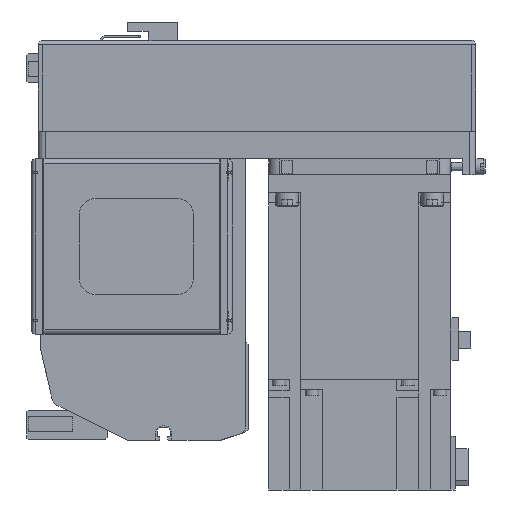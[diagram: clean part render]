
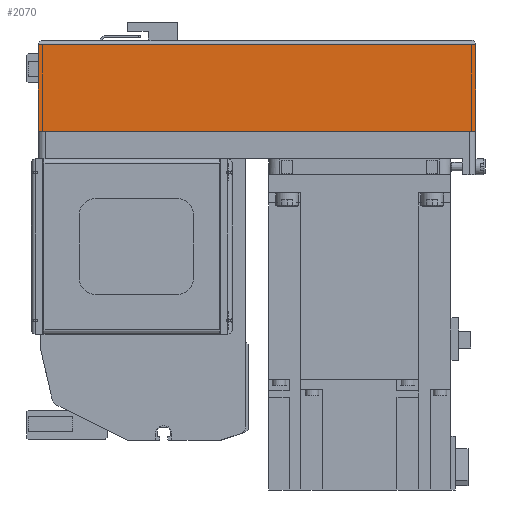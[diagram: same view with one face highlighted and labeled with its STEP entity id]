
A CAD part, left-side view. The second image highlights one B-rep face of the part: STEP entity #2070.
In plain terms, the highlighted planar face has unit normal (-1, 0, 0) as drawn and (0, -1, 0) by its records, which use the part's own axes.
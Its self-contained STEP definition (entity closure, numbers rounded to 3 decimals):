
#2070 = ADVANCED_FACE( '', ( #4849 ), #4850, .T. );
#4849 = FACE_OUTER_BOUND( '', #8467, .T. );
#4850 = PLANE( '', #8468 );
#8467 = EDGE_LOOP( '', ( #14407, #14408, #14409, #14410 ) );
#8468 = AXIS2_PLACEMENT_3D( '', #14411, #14412, #14413 );
#14407 = ORIENTED_EDGE( '', *, *, #21245, .F. );
#14408 = ORIENTED_EDGE( '', *, *, #22382, .F. );
#14409 = ORIENTED_EDGE( '', *, *, #22383, .T. );
#14410 = ORIENTED_EDGE( '', *, *, #22384, .T. );
#14411 = CARTESIAN_POINT( '', ( -192., -40., -12.1 ) );
#14412 = DIRECTION( '', ( 0., -1., 0. ) );
#14413 = DIRECTION( '', ( 0., 0., -1. ) );
#21245 = EDGE_CURVE( '', #25642, #25643, #25644, .T. );
#22382 = EDGE_CURVE( '', #25968, #25642, #27469, .T. );
#22383 = EDGE_CURVE( '', #25968, #26996, #27470, .T. );
#22384 = EDGE_CURVE( '', #26996, #25643, #27471, .T. );
#25642 = VERTEX_POINT( '', #32136 );
#25643 = VERTEX_POINT( '', #32137 );
#25644 = LINE( '', #32138, #32139 );
#25968 = VERTEX_POINT( '', #32598 );
#26996 = VERTEX_POINT( '', #34141 );
#27469 = LINE( '', #34910, #34911 );
#27470 = LINE( '', #34912, #34913 );
#27471 = LINE( '', #34914, #34915 );
#32136 = CARTESIAN_POINT( '', ( 0., -40., -12.1 ) );
#32137 = CARTESIAN_POINT( '', ( 0., -40., -50. ) );
#32138 = CARTESIAN_POINT( '', ( 0., -40., -12.1 ) );
#32139 = VECTOR( '', #39324, 1000. );
#32598 = CARTESIAN_POINT( '', ( -192., -40., -12.1 ) );
#34141 = CARTESIAN_POINT( '', ( -192., -40., -50. ) );
#34910 = CARTESIAN_POINT( '', ( -192., -40., -12.1 ) );
#34911 = VECTOR( '', #40822, 1000. );
#34912 = CARTESIAN_POINT( '', ( -192., -40., -12.1 ) );
#34913 = VECTOR( '', #40823, 1000. );
#34914 = CARTESIAN_POINT( '', ( -192., -40., -50. ) );
#34915 = VECTOR( '', #40824, 1000. );
#39324 = DIRECTION( '', ( 0., 0., -1. ) );
#40822 = DIRECTION( '', ( 1., 0., 0. ) );
#40823 = DIRECTION( '', ( 0., 0., -1. ) );
#40824 = DIRECTION( '', ( 1., 0., 0. ) );
